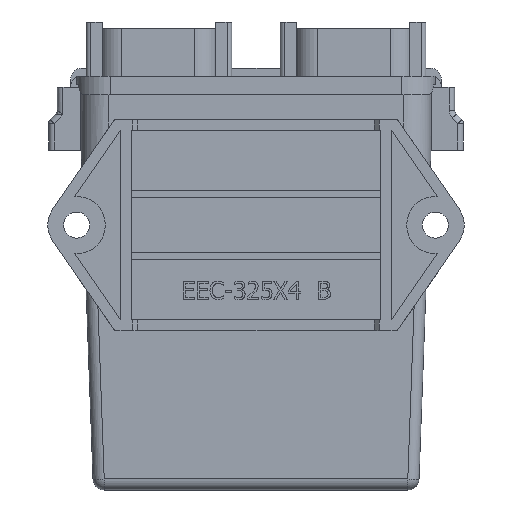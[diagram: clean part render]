
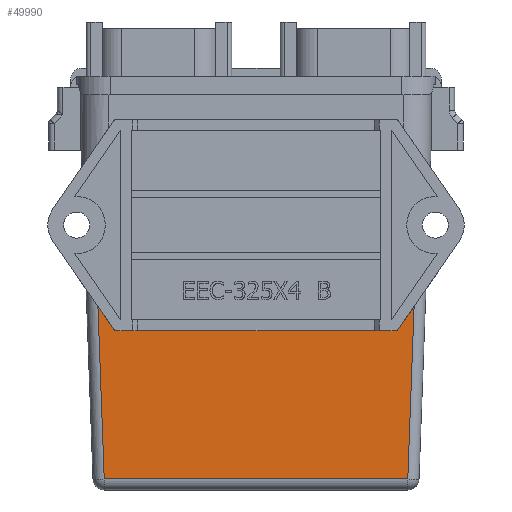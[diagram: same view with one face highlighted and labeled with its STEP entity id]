
A CAD part, front view. The second image highlights one B-rep face of the part: STEP entity #49990.
In plain terms, the highlighted planar face has unit normal (0, -1, -0.019).
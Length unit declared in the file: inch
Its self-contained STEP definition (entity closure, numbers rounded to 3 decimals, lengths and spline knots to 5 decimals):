
#39663=CARTESIAN_POINT('',(1.69197,-0.56531,-4.36535));
#39664=VERTEX_POINT('',#39663);
#39733=CARTESIAN_POINT('',(-1.69197,-0.56531,-4.36535));
#39734=VERTEX_POINT('',#39733);
#39751=CARTESIAN_POINT('',(1.69197,-0.56531,-4.36535));
#39752=DIRECTION('',(-1.0,0.0,0.0));
#39753=VECTOR('',#39752,3.38395);
#39754=LINE('',#39751,#39753);
#39755=EDGE_CURVE('',#39664,#39734,#39754,.T.);
#47488=CARTESIAN_POINT('',(-1.575,-0.59645,-2.71));
#47489=VERTEX_POINT('',#47488);
#47496=CARTESIAN_POINT('',(1.575,-0.59645,-2.71));
#47497=VERTEX_POINT('',#47496);
#47498=CARTESIAN_POINT('',(1.575,-0.59645,-2.71));
#47499=DIRECTION('',(-1.0,0.0,0.0));
#47500=VECTOR('',#47499,3.15);
#47501=LINE('',#47498,#47500);
#47502=EDGE_CURVE('',#47497,#47489,#47501,.T.);
#49941=CARTESIAN_POINT('',(-1.76216,-0.60153,-2.43995));
#49942=VERTEX_POINT('',#49941);
#49943=CARTESIAN_POINT('',(-1.69197,-0.56531,-4.36535));
#49944=DIRECTION('',(-0.036,-0.019,0.999));
#49945=VECTOR('',#49944,1.92702);
#49946=LINE('',#49943,#49945);
#49947=EDGE_CURVE('',#39734,#49942,#49946,.T.);
#49960=CARTESIAN_POINT('',(0.0,-0.563,-4.488));
#49961=DIRECTION('',(0.0,-1.,-0.019));
#49962=DIRECTION('',(0.0,0.019,-1.));
#49963=AXIS2_PLACEMENT_3D('',#49960,#49961,#49962);
#49964=PLANE('',#49963);
#49965=ORIENTED_EDGE('',*,*,#39755,.F.);
#49966=CARTESIAN_POINT('',(1.76216,-0.60153,-2.43995));
#49967=VERTEX_POINT('',#49966);
#49968=CARTESIAN_POINT('',(1.76216,-0.60153,-2.43995));
#49969=DIRECTION('',(-0.036,0.019,-0.999));
#49970=VECTOR('',#49969,1.92702);
#49971=LINE('',#49968,#49970);
#49972=EDGE_CURVE('',#49967,#39664,#49971,.T.);
#49973=ORIENTED_EDGE('',*,*,#49972,.F.);
#49974=CARTESIAN_POINT('',(1.76216,-0.60153,-2.43995));
#49975=DIRECTION('',(-0.57,0.015,-0.822));
#49976=VECTOR('',#49975,0.3286);
#49977=LINE('',#49974,#49976);
#49978=EDGE_CURVE('',#49967,#47497,#49977,.T.);
#49979=ORIENTED_EDGE('',*,*,#49978,.T.);
#49980=ORIENTED_EDGE('',*,*,#47502,.T.);
#49981=CARTESIAN_POINT('',(-1.575,-0.59645,-2.71));
#49982=DIRECTION('',(-0.57,-0.015,0.822));
#49983=VECTOR('',#49982,0.3286);
#49984=LINE('',#49981,#49983);
#49985=EDGE_CURVE('',#47489,#49942,#49984,.T.);
#49986=ORIENTED_EDGE('',*,*,#49985,.T.);
#49987=ORIENTED_EDGE('',*,*,#49947,.F.);
#49988=EDGE_LOOP('',(#49965,#49973,#49979,#49980,#49986,#49987));
#49989=FACE_OUTER_BOUND('',#49988,.T.);
#49990=ADVANCED_FACE('',(#49989),#49964,.T.);
